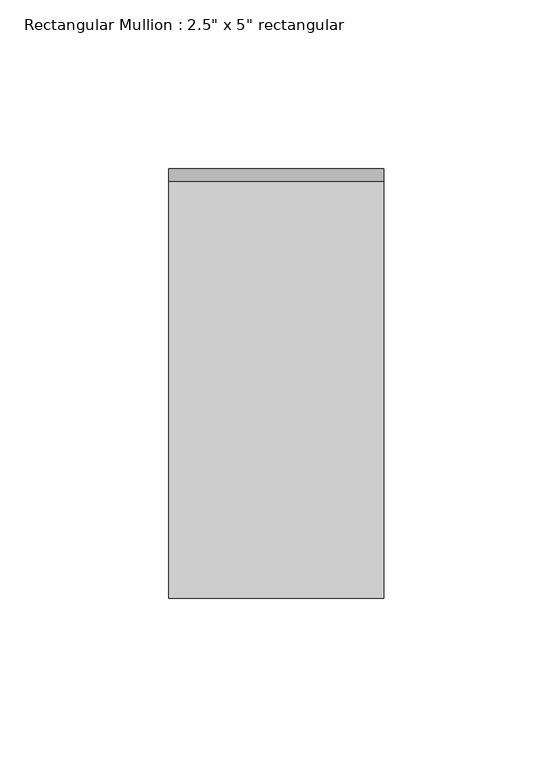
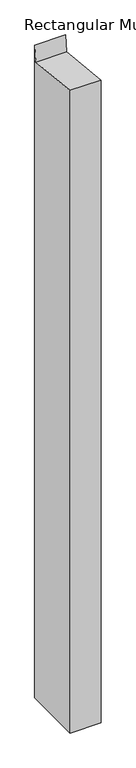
"""IFC4 building model written with IfcOpenShell, lengths in millimetres: member geometry."""

import ifcopenshell
import ifcopenshell.guid

model = None  # the IFC model being written
_history = None  # IfcOwnerHistory: only IFC2X3 demands one
_inside = {}  # id of a spatial element -> (the spatial element, [elements in it])
_under = {}  # id of a project, library or spatial element -> (it, [spatial elements below it])
_declared = {}  # id of a project -> (the project, [libraries it declares])
_typed = {}  # id of a type object -> (the type object, [elements of that type])
_made_of = {}  # id of a material, layer set ... -> (it, [elements and type objects made of it])


def new_model(schema):
    """Start an empty IFC model of exactly this schema.

    Asked for "IFC4X3", IfcOpenShell would pick the latest addendum, in which some entities
    have other attributes; the version numbers below select the first issue.
    IFC2X3 requires an IfcOwnerHistory on every rooted entity: one is made here for all.
    """
    global model, _history
    if schema == "IFC4X3":
        model = ifcopenshell.file(schema_version=(4, 3, 0, 0))
    else:
        model = ifcopenshell.file(schema=schema)
    _inside.clear()
    _under.clear()
    _declared.clear()
    _typed.clear()
    _made_of.clear()
    _history = None
    if model.schema == "IFC2X3":
        org = make("IfcOrganization", Name="unknown")
        user = make(
            "IfcPersonAndOrganization",
            ThePerson=make("IfcPerson", FamilyName="unknown"),
            TheOrganization=org,
        )
        app = make(
            "IfcApplication",
            ApplicationDeveloper=org,
            Version="unknown",
            ApplicationFullName="unknown",
            ApplicationIdentifier="unknown",
        )
        _history = make(
            "IfcOwnerHistory",
            OwningUser=user,
            OwningApplication=app,
            ChangeAction="ADDED",
            CreationDate=0,
        )
    return model


def make(cls, **values):
    """One entity of the class cls with the attributes given. An attribute that is None is left unset."""
    return model.create_entity(
        cls, **{name: value for name, value in values.items() if value is not None}
    )


def rooted(cls, **values):
    """An entity with a GlobalId (a new one), such as an element, a storey or a relation."""
    return make(cls, GlobalId=ifcopenshell.guid.new(), OwnerHistory=_history, **values)


def si_unit(unit_type, name, prefix=None):
    """IfcSIUnit, for example si_unit("LENGTHUNIT", "METRE", prefix="MILLI")."""
    return make("IfcSIUnit", UnitType=unit_type, Prefix=prefix, Name=name)


def assignment(units):
    """IfcUnitAssignment: the units of a project."""
    return None if units is None else make("IfcUnitAssignment", Units=units)


def point(xyz):
    """IfcCartesianPoint."""
    return None if xyz is None else make("IfcCartesianPoint", Coordinates=xyz)


def direction(xyz):
    """IfcDirection."""
    return None if xyz is None else make("IfcDirection", DirectionRatios=xyz)


def frame(location, z_axis=None, x_axis=None):
    """IfcAxis2Placement3D, a coordinate frame: its origin and axes. An axis left out is left unset."""
    return make(
        "IfcAxis2Placement3D",
        Location=point(location),
        Axis=direction(z_axis),
        RefDirection=direction(x_axis),
    )


def origin():
    """The frame at (0, 0, 0) with its axes left unset."""
    return frame((0.0, 0.0, 0.0))


def place(relative_to, where):
    """IfcLocalPlacement: puts the frame where relative to a parent placement (None: the world)."""
    return make(
        "IfcLocalPlacement", PlacementRelTo=relative_to, RelativePlacement=where
    )


def context(
    kind, dimensions, precision=None, world=None, true_north=None, identifier=None
):
    """IfcGeometricRepresentationContext, for example the 3D "Model" context."""
    return make(
        "IfcGeometricRepresentationContext",
        ContextIdentifier=identifier,
        ContextType=kind,
        CoordinateSpaceDimension=dimensions,
        Precision=precision,
        WorldCoordinateSystem=world,
        TrueNorth=true_north,
    )


def project(units=None, contexts=None):
    """IfcProject with its units and contexts."""
    return rooted(
        "IfcProject",
        Name="project",
        RepresentationContexts=contexts,
        UnitsInContext=assignment(units),
    )


def spatial(cls, under=None, at=None, **own):
    """A site, building, storey or space (cls), placed at a placement, below another one or the project."""
    s = rooted(cls, ObjectPlacement=at, **own)
    if under is not None:
        _under.setdefault(under.id(), (under, []))[1].append(s)
    return s


def polyline(points):
    """IfcPolyline through the points."""
    return make("IfcPolyline", Points=[point(p) for p in points])


def outline(outer, holes=None, kind="AREA"):
    """IfcArbitraryClosedProfileDef: a profile drawn as a closed curve; with holes, ...WithVoids."""
    if holes is None:
        return make("IfcArbitraryClosedProfileDef", ProfileType=kind, OuterCurve=outer)
    return make(
        "IfcArbitraryProfileDefWithVoids",
        ProfileType=kind,
        OuterCurve=outer,
        InnerCurves=holes,
    )


def extrude(swept, where, along, depth):
    """IfcExtrudedAreaSolid: the profile swept, set in the frame where, extruded along a direction by depth."""
    return make(
        "IfcExtrudedAreaSolid",
        SweptArea=swept,
        Position=where,
        ExtrudedDirection=direction(along),
        Depth=depth,
    )


def shape(context_of_items, identifier, shape_type, items):
    """IfcShapeRepresentation: the items that make up one representation, for example the "Body"."""
    return make(
        "IfcShapeRepresentation",
        ContextOfItems=context_of_items,
        RepresentationIdentifier=identifier,
        RepresentationType=shape_type,
        Items=items,
    )


def source(mapping_origin, context_of_items, identifier, shape_type, items):
    """IfcRepresentationMap: a shape defined once, which mapped items show again and again."""
    return make(
        "IfcRepresentationMap",
        MappingOrigin=mapping_origin,
        MappedRepresentation=shape(context_of_items, identifier, shape_type, items),
    )


def transform(
    local_origin,
    x_axis=None,
    y_axis=None,
    z_axis=None,
    scale=None,
    scale2=None,
    scale3=None,
    uniform=True,
):
    """IfcCartesianTransformationOperator3D, or its non-uniform kind. x_axis, y_axis, z_axis: its Axis1, 2, 3."""
    if uniform:
        return make(
            "IfcCartesianTransformationOperator3D",
            Axis1=direction(x_axis),
            Axis2=direction(y_axis),
            LocalOrigin=point(local_origin),
            Scale=scale,
            Axis3=direction(z_axis),
        )
    return make(
        "IfcCartesianTransformationOperator3DnonUniform",
        Axis1=direction(x_axis),
        Axis2=direction(y_axis),
        LocalOrigin=point(local_origin),
        Scale=scale,
        Axis3=direction(z_axis),
        Scale2=scale2,
        Scale3=scale3,
    )


def mapped(mapping_source, mapping_target):
    """IfcMappedItem: shows the shape of a source again, moved by a transform."""
    return make(
        "IfcMappedItem", MappingSource=mapping_source, MappingTarget=mapping_target
    )


def made_of(thing, what):
    """Note that an element or type object is made of a material, layer set ...; save() writes the relation."""
    if what is not None:
        _made_of.setdefault(what.id(), (what, []))[1].append(thing)
    return thing


def element(
    cls,
    number,
    at=None,
    inside=None,
    cuts=None,
    type_object=None,
    material=None,
    context=None,
    identifier="Body",
    shape_type=None,
    held_by="IfcProductDefinitionShape",
    body=None,
    shapes=None,
    **own,
):
    """One element of the class cls, such as IfcWall. Its Tag is "e" and its number.

    at: its placement. inside: the storey or other place that contains it. cuts: it is an
    opening in that element (IfcRelVoidsElement). A single representation is given by context,
    identifier, shape_type and body (its items); several are given by shapes. held_by: the class
    of the entity that holds the representations. save() writes the other relations.
    """
    e = rooted(cls, Tag="e%d" % number, ObjectPlacement=at, **own)
    if body is not None:
        shapes = [shape(context, identifier, shape_type, body)]
    if shapes is not None:
        e.Representation = make(held_by, Representations=shapes)
    if inside is not None:
        _inside.setdefault(inside.id(), (inside, []))[1].append(e)
    if cuts is not None:
        rooted(
            "IfcRelVoidsElement", RelatingBuildingElement=cuts, RelatedOpeningElement=e
        )
    if type_object is not None:
        _typed.setdefault(type_object.id(), (type_object, []))[1].append(e)
    return made_of(e, material)


def aggregate(whole, parts):
    """IfcRelAggregates: a whole, such as a stair, and the parts it consists of."""
    return rooted("IfcRelAggregates", RelatingObject=whole, RelatedObjects=parts)


def save(model, path):
    """Write the relations noted so far, then the file.

    IfcRelAggregates (storeys below a building ...), IfcRelContainedInSpatialStructure (elements
    in a storey), IfcRelDefinesByType, IfcRelAssociatesMaterial and IfcRelDeclares: one each for
    every whole, place, type object, material and project.
    """
    for whole, parts in _under.values():
        aggregate(whole, parts)
    for where, things in _inside.values():
        rooted(
            "IfcRelContainedInSpatialStructure",
            RelatedElements=things,
            RelatingStructure=where,
        )
    for kind, things in _typed.values():
        rooted("IfcRelDefinesByType", RelatedObjects=things, RelatingType=kind)
    for what, things in _made_of.values():
        rooted("IfcRelAssociatesMaterial", RelatedObjects=things, RelatingMaterial=what)
    for by, libraries in _declared.values():
        rooted("IfcRelDeclares", RelatingContext=by, RelatedDefinitions=libraries)
    model.write(path)


def member_165ff730(model_context):
    return source(origin(), model_context, "Body", "SweptSolid", [
        extrude(outline(polyline([(-63.5, 6.4992311), (59.8333616, -6.4636276), (63.5, 28.422106), (63.5, -1397.2047853), (-63.5, -1397.2047853), (-63.5, 6.4992311)])), frame((-63.5, 0.0, 0.0), z_axis=(1.0, 0.0, 0.0), x_axis=(0.0, 1.0, 0.0)), (0.0, 0.0, 1.0), 63.5),
    ])


if __name__ == "__main__":
    model = new_model("IFC4")
    model_context = context("Model", 3, world=origin())
    ifc_project = project(units=[si_unit("LENGTHUNIT", "METRE", prefix="MILLI")], contexts=[model_context])
    site = spatial("IfcSite", under=ifc_project)
    building = spatial("IfcBuilding", under=site)
    placement = place(None, origin())
    member_shape = member_165ff730(model_context)
    element("IfcMember", 1, ObjectType="Rectangular Mullion : 2.5\" x 5\" rectangular", at=placement, inside=building, context=model_context, shape_type="MappedRepresentation", body=[
        mapped(member_shape, transform((0.0, 0.0, 0.0), x_axis=(1.0, 0.0, 0.0), y_axis=(0.0, 1.0, 0.0), z_axis=(0.0, 0.0, 1.0))),
    ])
    save(model, "model.ifc")
